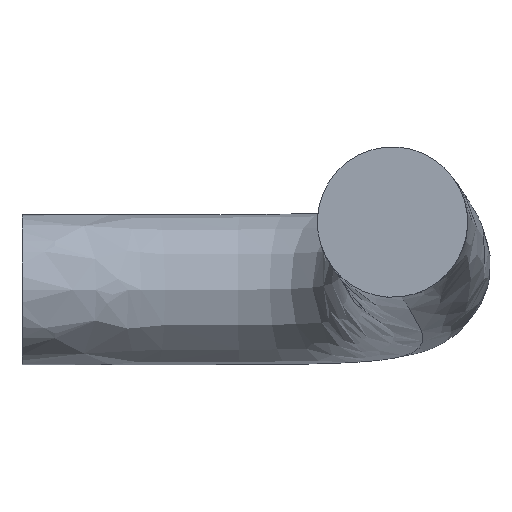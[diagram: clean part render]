
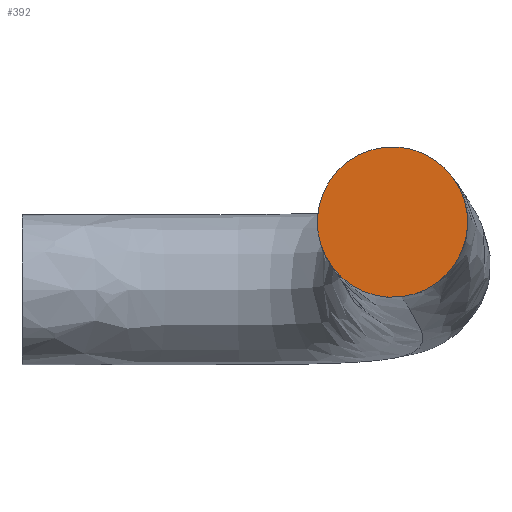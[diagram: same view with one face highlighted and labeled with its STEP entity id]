
A CAD part, front view. The second image highlights one B-rep face of the part: STEP entity #392.
In plain terms, the highlighted planar face has unit normal (0, -1, 0).
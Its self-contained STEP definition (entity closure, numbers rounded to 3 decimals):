
#23 = DIRECTION ( 'NONE',  ( 0., -1., 0. ) ) ;
#77 = DIRECTION ( 'NONE',  ( 0.117, 0., -0.993 ) ) ;
#82 = DIRECTION ( 'NONE',  ( 0.117, 0., -0.993 ) ) ;
#89 = FACE_OUTER_BOUND ( 'NONE', #263, .T. ) ;
#91 = AXIS2_PLACEMENT_3D ( 'NONE', #608, #801, #297 ) ;
#96 = EDGE_CURVE ( 'NONE', #594, #659, #523, .T. ) ;
#127 = AXIS2_PLACEMENT_3D ( 'NONE', #152, #23, #77 ) ;
#152 = CARTESIAN_POINT ( 'NONE',  ( 2119.896, -56.441, 2032.5 ) ) ;
#200 = ORIENTED_EDGE ( 'NONE', *, *, #96, .T. ) ;
#263 = EDGE_LOOP ( 'NONE', ( #348, #200 ) ) ;
#277 = EDGE_CURVE ( 'NONE', #659, #594, #701, .T. ) ;
#297 = DIRECTION ( 'NONE',  ( 0.117, 0., -0.993 ) ) ;
#348 = ORIENTED_EDGE ( 'NONE', *, *, #277, .T. ) ;
#392 = ADVANCED_FACE ( 'NONE', ( #89 ), #794, .T. ) ;
#451 = AXIS2_PLACEMENT_3D ( 'NONE', #589, #514, #82 ) ;
#475 = CARTESIAN_POINT ( 'NONE',  ( 2125.149, -56.441, 1987.808 ) ) ;
#514 = DIRECTION ( 'NONE',  ( 0., -1., 0. ) ) ;
#523 = CIRCLE ( 'NONE', #127, 45. ) ;
#541 = CARTESIAN_POINT ( 'NONE',  ( 2114.644, -56.441, 2077.192 ) ) ;
#589 = CARTESIAN_POINT ( 'NONE',  ( 2119.896, -56.441, 2032.5 ) ) ;
#594 = VERTEX_POINT ( 'NONE', #541 ) ;
#608 = CARTESIAN_POINT ( 'NONE',  ( 2119.896, -56.441, 2032.5 ) ) ;
#659 = VERTEX_POINT ( 'NONE', #475 ) ;
#701 = CIRCLE ( 'NONE', #451, 45. ) ;
#794 = PLANE ( 'NONE',  #91 ) ;
#801 = DIRECTION ( 'NONE',  ( 0., -1., 0. ) ) ;
